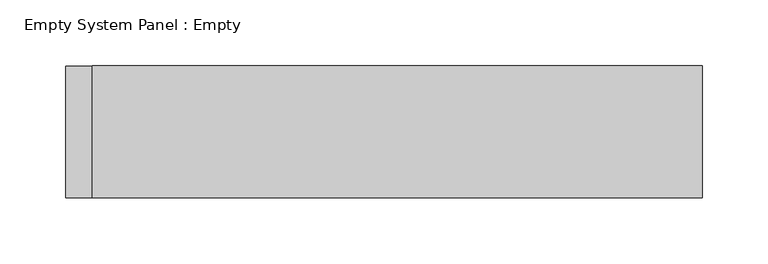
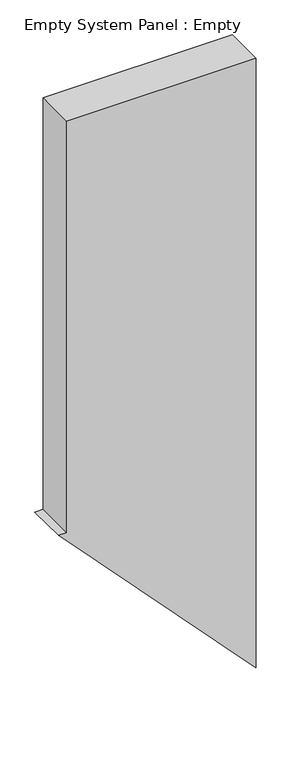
"""IFC4 building model written with IfcOpenShell, lengths in millimetres: plate geometry, Empty System Panel : Empty."""

import ifcopenshell
import ifcopenshell.guid

model = None  # the IFC model being written
_history = None  # IfcOwnerHistory: only IFC2X3 demands one
_inside = {}  # id of a spatial element -> (the spatial element, [elements in it])
_under = {}  # id of a project, library or spatial element -> (it, [spatial elements below it])
_declared = {}  # id of a project -> (the project, [libraries it declares])
_typed = {}  # id of a type object -> (the type object, [elements of that type])
_made_of = {}  # id of a material, layer set ... -> (it, [elements and type objects made of it])


def new_model(schema):
    """Start an empty IFC model of exactly this schema.

    Asked for "IFC4X3", IfcOpenShell would pick the latest addendum, in which some entities
    have other attributes; the version numbers below select the first issue.
    IFC2X3 requires an IfcOwnerHistory on every rooted entity: one is made here for all.
    """
    global model, _history
    if schema == "IFC4X3":
        model = ifcopenshell.file(schema_version=(4, 3, 0, 0))
    else:
        model = ifcopenshell.file(schema=schema)
    _inside.clear()
    _under.clear()
    _declared.clear()
    _typed.clear()
    _made_of.clear()
    _history = None
    if model.schema == "IFC2X3":
        org = make("IfcOrganization", Name="unknown")
        user = make(
            "IfcPersonAndOrganization",
            ThePerson=make("IfcPerson", FamilyName="unknown"),
            TheOrganization=org,
        )
        app = make(
            "IfcApplication",
            ApplicationDeveloper=org,
            Version="unknown",
            ApplicationFullName="unknown",
            ApplicationIdentifier="unknown",
        )
        _history = make(
            "IfcOwnerHistory",
            OwningUser=user,
            OwningApplication=app,
            ChangeAction="ADDED",
            CreationDate=0,
        )
    return model


def make(cls, **values):
    """One entity of the class cls with the attributes given. An attribute that is None is left unset."""
    return model.create_entity(
        cls, **{name: value for name, value in values.items() if value is not None}
    )


def rooted(cls, **values):
    """An entity with a GlobalId (a new one), such as an element, a storey or a relation."""
    return make(cls, GlobalId=ifcopenshell.guid.new(), OwnerHistory=_history, **values)


def si_unit(unit_type, name, prefix=None):
    """IfcSIUnit, for example si_unit("LENGTHUNIT", "METRE", prefix="MILLI")."""
    return make("IfcSIUnit", UnitType=unit_type, Prefix=prefix, Name=name)


def assignment(units):
    """IfcUnitAssignment: the units of a project."""
    return None if units is None else make("IfcUnitAssignment", Units=units)


def point(xyz):
    """IfcCartesianPoint."""
    return None if xyz is None else make("IfcCartesianPoint", Coordinates=xyz)


def direction(xyz):
    """IfcDirection."""
    return None if xyz is None else make("IfcDirection", DirectionRatios=xyz)


def frame(location, z_axis=None, x_axis=None):
    """IfcAxis2Placement3D, a coordinate frame: its origin and axes. An axis left out is left unset."""
    return make(
        "IfcAxis2Placement3D",
        Location=point(location),
        Axis=direction(z_axis),
        RefDirection=direction(x_axis),
    )


def origin():
    """The frame at (0, 0, 0) with its axes left unset."""
    return frame((0.0, 0.0, 0.0))


def place(relative_to, where):
    """IfcLocalPlacement: puts the frame where relative to a parent placement (None: the world)."""
    return make(
        "IfcLocalPlacement", PlacementRelTo=relative_to, RelativePlacement=where
    )


def context(
    kind, dimensions, precision=None, world=None, true_north=None, identifier=None
):
    """IfcGeometricRepresentationContext, for example the 3D "Model" context."""
    return make(
        "IfcGeometricRepresentationContext",
        ContextIdentifier=identifier,
        ContextType=kind,
        CoordinateSpaceDimension=dimensions,
        Precision=precision,
        WorldCoordinateSystem=world,
        TrueNorth=true_north,
    )


def project(units=None, contexts=None):
    """IfcProject with its units and contexts."""
    return rooted(
        "IfcProject",
        Name="project",
        RepresentationContexts=contexts,
        UnitsInContext=assignment(units),
    )


def spatial(cls, under=None, at=None, **own):
    """A site, building, storey or space (cls), placed at a placement, below another one or the project."""
    s = rooted(cls, ObjectPlacement=at, **own)
    if under is not None:
        _under.setdefault(under.id(), (under, []))[1].append(s)
    return s


def polyline(points):
    """IfcPolyline through the points."""
    return make("IfcPolyline", Points=[point(p) for p in points])


def outline(outer, holes=None, kind="AREA"):
    """IfcArbitraryClosedProfileDef: a profile drawn as a closed curve; with holes, ...WithVoids."""
    if holes is None:
        return make("IfcArbitraryClosedProfileDef", ProfileType=kind, OuterCurve=outer)
    return make(
        "IfcArbitraryProfileDefWithVoids",
        ProfileType=kind,
        OuterCurve=outer,
        InnerCurves=holes,
    )


def extrude(swept, where, along, depth):
    """IfcExtrudedAreaSolid: the profile swept, set in the frame where, extruded along a direction by depth."""
    return make(
        "IfcExtrudedAreaSolid",
        SweptArea=swept,
        Position=where,
        ExtrudedDirection=direction(along),
        Depth=depth,
    )


def shape(context_of_items, identifier, shape_type, items):
    """IfcShapeRepresentation: the items that make up one representation, for example the "Body"."""
    return make(
        "IfcShapeRepresentation",
        ContextOfItems=context_of_items,
        RepresentationIdentifier=identifier,
        RepresentationType=shape_type,
        Items=items,
    )


def source(mapping_origin, context_of_items, identifier, shape_type, items):
    """IfcRepresentationMap: a shape defined once, which mapped items show again and again."""
    return make(
        "IfcRepresentationMap",
        MappingOrigin=mapping_origin,
        MappedRepresentation=shape(context_of_items, identifier, shape_type, items),
    )


def transform(
    local_origin,
    x_axis=None,
    y_axis=None,
    z_axis=None,
    scale=None,
    scale2=None,
    scale3=None,
    uniform=True,
):
    """IfcCartesianTransformationOperator3D, or its non-uniform kind. x_axis, y_axis, z_axis: its Axis1, 2, 3."""
    if uniform:
        return make(
            "IfcCartesianTransformationOperator3D",
            Axis1=direction(x_axis),
            Axis2=direction(y_axis),
            LocalOrigin=point(local_origin),
            Scale=scale,
            Axis3=direction(z_axis),
        )
    return make(
        "IfcCartesianTransformationOperator3DnonUniform",
        Axis1=direction(x_axis),
        Axis2=direction(y_axis),
        LocalOrigin=point(local_origin),
        Scale=scale,
        Axis3=direction(z_axis),
        Scale2=scale2,
        Scale3=scale3,
    )


def mapped(mapping_source, mapping_target):
    """IfcMappedItem: shows the shape of a source again, moved by a transform."""
    return make(
        "IfcMappedItem", MappingSource=mapping_source, MappingTarget=mapping_target
    )


def made_of(thing, what):
    """Note that an element or type object is made of a material, layer set ...; save() writes the relation."""
    if what is not None:
        _made_of.setdefault(what.id(), (what, []))[1].append(thing)
    return thing


def element(
    cls,
    number,
    at=None,
    inside=None,
    cuts=None,
    type_object=None,
    material=None,
    context=None,
    identifier="Body",
    shape_type=None,
    held_by="IfcProductDefinitionShape",
    body=None,
    shapes=None,
    **own,
):
    """One element of the class cls, such as IfcWall. Its Tag is "e" and its number.

    at: its placement. inside: the storey or other place that contains it. cuts: it is an
    opening in that element (IfcRelVoidsElement). A single representation is given by context,
    identifier, shape_type and body (its items); several are given by shapes. held_by: the class
    of the entity that holds the representations. save() writes the other relations.
    """
    e = rooted(cls, Tag="e%d" % number, ObjectPlacement=at, **own)
    if body is not None:
        shapes = [shape(context, identifier, shape_type, body)]
    if shapes is not None:
        e.Representation = make(held_by, Representations=shapes)
    if inside is not None:
        _inside.setdefault(inside.id(), (inside, []))[1].append(e)
    if cuts is not None:
        rooted(
            "IfcRelVoidsElement", RelatingBuildingElement=cuts, RelatedOpeningElement=e
        )
    if type_object is not None:
        _typed.setdefault(type_object.id(), (type_object, []))[1].append(e)
    return made_of(e, material)


def aggregate(whole, parts):
    """IfcRelAggregates: a whole, such as a stair, and the parts it consists of."""
    return rooted("IfcRelAggregates", RelatingObject=whole, RelatedObjects=parts)


def save(model, path):
    """Write the relations noted so far, then the file.

    IfcRelAggregates (storeys below a building ...), IfcRelContainedInSpatialStructure (elements
    in a storey), IfcRelDefinesByType, IfcRelAssociatesMaterial and IfcRelDeclares: one each for
    every whole, place, type object, material and project.
    """
    for whole, parts in _under.values():
        aggregate(whole, parts)
    for where, things in _inside.values():
        rooted(
            "IfcRelContainedInSpatialStructure",
            RelatedElements=things,
            RelatingStructure=where,
        )
    for kind, things in _typed.values():
        rooted("IfcRelDefinesByType", RelatedObjects=things, RelatingType=kind)
    for what, things in _made_of.values():
        rooted("IfcRelAssociatesMaterial", RelatedObjects=things, RelatingMaterial=what)
    for by, libraries in _declared.values():
        rooted("IfcRelDeclares", RelatingContext=by, RelatedDefinitions=libraries)
    model.write(path)


def empty_system_panel_empty_8542ca6b(model_context):
    return source(origin(), model_context, "Body", "SweptSolid", [
        extrude(outline(polyline([(510.177857, -241.6440778), (0.0, 241.6440778), (1572.7591338, 241.6440778), (1572.7591338, -221.6440778), (510.177857, -221.6440778), (510.177857, -241.6440778)])), frame((0.0, -50.0, 0.0), z_axis=(0.0, 1.0, 0.0), x_axis=(0.0, 0.0, 1.0)), (0.0, 0.0, 1.0), 100.0),
    ])


if __name__ == "__main__":
    model = new_model("IFC4")
    model_context = context("Model", 3, world=origin())
    ifc_project = project(units=[si_unit("LENGTHUNIT", "METRE", prefix="MILLI")], contexts=[model_context])
    site = spatial("IfcSite", under=ifc_project)
    building = spatial("IfcBuilding", under=site)
    placement = place(None, origin())
    empty_system_panel_empty_shape = empty_system_panel_empty_8542ca6b(model_context)
    element("IfcPlate", 1, ObjectType="Empty System Panel : Empty", at=placement, inside=building, context=model_context, shape_type="MappedRepresentation", body=[
        mapped(empty_system_panel_empty_shape, transform((0.0, 0.0, 0.0), x_axis=(1.0, 0.0, 0.0), y_axis=(0.0, 1.0, 0.0), z_axis=(0.0, 0.0, 1.0))),
    ])
    save(model, "model.ifc")
